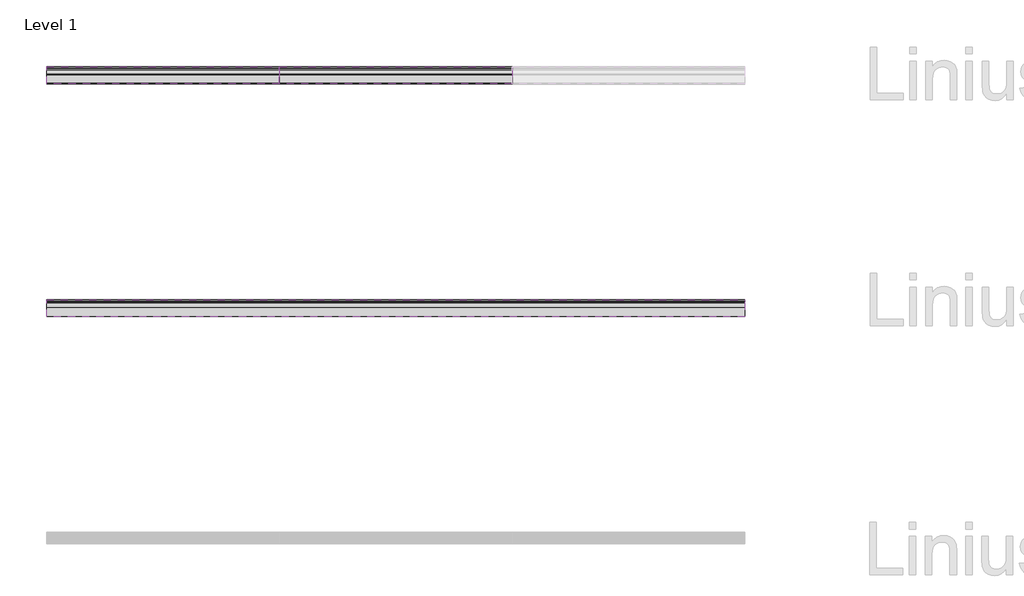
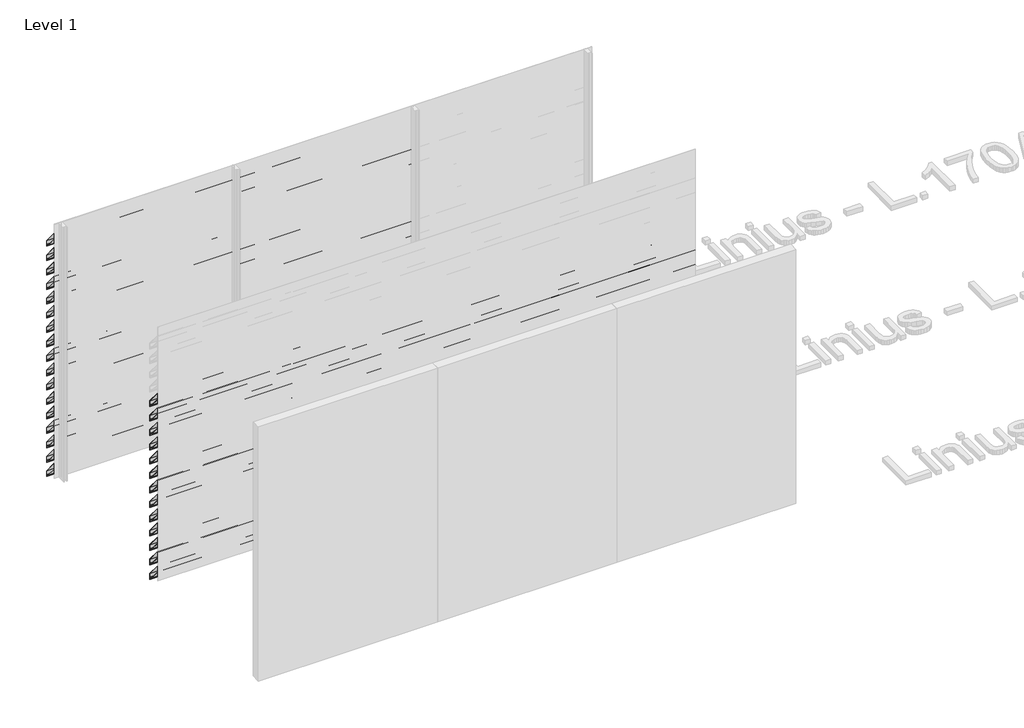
# One storey, part 60 of 121: 47 proxies.
"""IFC4 building model written with IfcOpenShell, lengths in millimetres."""

from ifc_helpers import new_model, si_unit, frame, origin, place, context, project, spatial, polyline, outline, extrude, element, save

model = new_model("IFC4")

# Units and contexts
model_context = context("Model", 3, world=origin())
ifc_project = project(units=[si_unit("LENGTHUNIT", "METRE", prefix="MILLI")], contexts=[model_context])

# Site, building, storey
site = spatial("IfcSite", under=ifc_project)
building = spatial("IfcBuilding", under=site)
storey = spatial("IfcBuildingStorey", under=building, Name="Level 1", Elevation=0.0)

# Proxies
placement = place(None, origin())
element("IfcBuildingElementProxy", 1, Name="Wall Sweeps", at=placement, inside=storey, context=model_context, shape_type="SweptSolid", body=[
    extrude(outline(polyline([(51630.0540136, 2720.0), (51630.0540136, 2651.0), (51627.5540136, 2652.1657691), (51627.5540136, 2665.7059843), (51610.8041465, 2685.6676986), (51600.1189071, 2685.6676986), (51483.0540136, 2825.1802059), (51483.0540136, 2890.0), (51487.4070763, 2890.0), (51630.0540136, 2720.0)]), holes=[polyline([(51486.5210918, 2888.1), (51484.9540136, 2888.1), (51484.9540136, 2825.8717493), (51601.0048916, 2687.5676986), (51611.6901311, 2687.5676986), (51628.1540136, 2667.9468074), (51628.1540136, 2719.3084566), (51486.5210918, 2888.1)])]), frame((44966.6208097, 0.0, 0.0), z_axis=(1.0, 0.0, 0.0), x_axis=(0.0, 1.0, 0.0)), (0.0, 0.0, 1.0), 2000.0),
])
element("IfcBuildingElementProxy", 2, Name="Wall Sweeps", at=placement, inside=storey, context=model_context, shape_type="SweptSolid", body=[
    extrude(outline(polyline([(51630.0540136, 2550.0), (51630.0540136, 2481.0), (51627.5540136, 2482.1657691), (51627.5540136, 2495.7059843), (51610.8041465, 2515.6676986), (51600.1189071, 2515.6676986), (51483.0540136, 2655.1802059), (51483.0540136, 2720.0), (51487.4070763, 2720.0), (51630.0540136, 2550.0)]), holes=[polyline([(51486.5210918, 2718.1), (51484.9540136, 2718.1), (51484.9540136, 2655.8717493), (51601.0048916, 2517.5676986), (51611.6901311, 2517.5676986), (51628.1540136, 2497.9468074), (51628.1540136, 2549.3084566), (51486.5210918, 2718.1)])]), frame((44966.6208097, 0.0, 0.0), z_axis=(1.0, 0.0, 0.0), x_axis=(0.0, 1.0, 0.0)), (0.0, 0.0, 1.0), 2000.0),
])
element("IfcBuildingElementProxy", 3, Name="Wall Sweeps", at=placement, inside=storey, context=model_context, shape_type="SweptSolid", body=[
    extrude(outline(polyline([(51630.0540136, 2380.0), (51630.0540136, 2311.0), (51627.5540136, 2312.1657691), (51627.5540136, 2325.7059843), (51610.8041465, 2345.6676986), (51600.1189071, 2345.6676986), (51483.0540136, 2485.1802059), (51483.0540136, 2550.0), (51487.4070763, 2550.0), (51630.0540136, 2380.0)]), holes=[polyline([(51486.5210918, 2548.1), (51484.9540136, 2548.1), (51484.9540136, 2485.8717493), (51601.0048916, 2347.5676986), (51611.6901311, 2347.5676986), (51628.1540136, 2327.9468074), (51628.1540136, 2379.3084566), (51486.5210918, 2548.1)])]), frame((44966.6208097, 0.0, 0.0), z_axis=(1.0, 0.0, 0.0), x_axis=(0.0, 1.0, 0.0)), (0.0, 0.0, 1.0), 2000.0),
])
element("IfcBuildingElementProxy", 4, Name="Wall Sweeps", at=placement, inside=storey, context=model_context, shape_type="SweptSolid", body=[
    extrude(outline(polyline([(51630.0540136, 2210.0), (51630.0540136, 2141.0), (51627.5540136, 2142.1657691), (51627.5540136, 2155.7059843), (51610.8041465, 2175.6676986), (51600.1189071, 2175.6676986), (51483.0540136, 2315.1802059), (51483.0540136, 2380.0), (51487.4070763, 2380.0), (51630.0540136, 2210.0)]), holes=[polyline([(51486.5210918, 2378.1), (51484.9540136, 2378.1), (51484.9540136, 2315.8717493), (51601.0048916, 2177.5676986), (51611.6901311, 2177.5676986), (51628.1540136, 2157.9468074), (51628.1540136, 2209.3084566), (51486.5210918, 2378.1)])]), frame((44966.6208097, 0.0, 0.0), z_axis=(1.0, 0.0, 0.0), x_axis=(0.0, 1.0, 0.0)), (0.0, 0.0, 1.0), 2000.0),
])
element("IfcBuildingElementProxy", 5, Name="Wall Sweeps", at=placement, inside=storey, context=model_context, shape_type="SweptSolid", body=[
    extrude(outline(polyline([(51630.0540136, 2040.0), (51630.0540136, 1971.0), (51627.5540136, 1972.1657691), (51627.5540136, 1985.7059843), (51610.8041465, 2005.6676986), (51600.1189071, 2005.6676986), (51483.0540136, 2145.1802059), (51483.0540136, 2210.0), (51487.4070763, 2210.0), (51630.0540136, 2040.0)]), holes=[polyline([(51486.5210918, 2208.1), (51484.9540136, 2208.1), (51484.9540136, 2145.8717493), (51601.0048916, 2007.5676986), (51611.6901311, 2007.5676986), (51628.1540136, 1987.9468074), (51628.1540136, 2039.3084566), (51486.5210918, 2208.1)])]), frame((44966.6208097, 0.0, 0.0), z_axis=(1.0, 0.0, 0.0), x_axis=(0.0, 1.0, 0.0)), (0.0, 0.0, 1.0), 2000.0),
])
element("IfcBuildingElementProxy", 6, Name="Wall Sweeps", at=placement, inside=storey, context=model_context, shape_type="SweptSolid", body=[
    extrude(outline(polyline([(51630.0540136, 1870.0), (51630.0540136, 1801.0), (51627.5540136, 1802.1657691), (51627.5540136, 1815.7059843), (51610.8041465, 1835.6676986), (51600.1189071, 1835.6676986), (51483.0540136, 1975.1802059), (51483.0540136, 2040.0), (51487.4070763, 2040.0), (51630.0540136, 1870.0)]), holes=[polyline([(51486.5210918, 2038.1), (51484.9540136, 2038.1), (51484.9540136, 1975.8717493), (51601.0048916, 1837.5676986), (51611.6901311, 1837.5676986), (51628.1540136, 1817.9468074), (51628.1540136, 1869.3084566), (51486.5210918, 2038.1)])]), frame((44966.6208097, 0.0, 0.0), z_axis=(1.0, 0.0, 0.0), x_axis=(0.0, 1.0, 0.0)), (0.0, 0.0, 1.0), 2000.0),
])
element("IfcBuildingElementProxy", 7, Name="Wall Sweeps", at=placement, inside=storey, context=model_context, shape_type="SweptSolid", body=[
    extrude(outline(polyline([(51630.0540136, 1700.0), (51630.0540136, 1631.0), (51627.5540136, 1632.1657691), (51627.5540136, 1645.7059843), (51610.8041465, 1665.6676986), (51600.1189071, 1665.6676986), (51483.0540136, 1805.1802059), (51483.0540136, 1870.0), (51487.4070763, 1870.0), (51630.0540136, 1700.0)]), holes=[polyline([(51486.5210918, 1868.1), (51484.9540136, 1868.1), (51484.9540136, 1805.8717493), (51601.0048916, 1667.5676986), (51611.6901311, 1667.5676986), (51628.1540136, 1647.9468074), (51628.1540136, 1699.3084566), (51486.5210918, 1868.1)])]), frame((44966.6208097, 0.0, 0.0), z_axis=(1.0, 0.0, 0.0), x_axis=(0.0, 1.0, 0.0)), (0.0, 0.0, 1.0), 2000.0),
])
element("IfcBuildingElementProxy", 8, Name="Wall Sweeps", at=placement, inside=storey, context=model_context, shape_type="SweptSolid", body=[
    extrude(outline(polyline([(51630.0540136, 1530.0), (51630.0540136, 1461.0), (51627.5540136, 1462.1657691), (51627.5540136, 1475.7059843), (51610.8041465, 1495.6676986), (51600.1189071, 1495.6676986), (51483.0540136, 1635.1802059), (51483.0540136, 1700.0), (51487.4070763, 1700.0), (51630.0540136, 1530.0)]), holes=[polyline([(51486.5210918, 1698.1), (51484.9540136, 1698.1), (51484.9540136, 1635.8717493), (51601.0048916, 1497.5676986), (51611.6901311, 1497.5676986), (51628.1540136, 1477.9468074), (51628.1540136, 1529.3084566), (51486.5210918, 1698.1)])]), frame((44966.6208097, 0.0, 0.0), z_axis=(1.0, 0.0, 0.0), x_axis=(0.0, 1.0, 0.0)), (0.0, 0.0, 1.0), 2000.0),
])
element("IfcBuildingElementProxy", 9, Name="Wall Sweeps", at=placement, inside=storey, context=model_context, shape_type="SweptSolid", body=[
    extrude(outline(polyline([(51630.0540136, 1360.0), (51630.0540136, 1291.0), (51627.5540136, 1292.1657691), (51627.5540136, 1305.7059843), (51610.8041465, 1325.6676986), (51600.1189071, 1325.6676986), (51483.0540136, 1465.1802059), (51483.0540136, 1530.0), (51487.4070763, 1530.0), (51630.0540136, 1360.0)]), holes=[polyline([(51486.5210918, 1528.1), (51484.9540136, 1528.1), (51484.9540136, 1465.8717493), (51601.0048916, 1327.5676986), (51611.6901311, 1327.5676986), (51628.1540136, 1307.9468074), (51628.1540136, 1359.3084566), (51486.5210918, 1528.1)])]), frame((44966.6208097, 0.0, 0.0), z_axis=(1.0, 0.0, 0.0), x_axis=(0.0, 1.0, 0.0)), (0.0, 0.0, 1.0), 2000.0),
])
element("IfcBuildingElementProxy", 10, Name="Wall Sweeps", at=placement, inside=storey, context=model_context, shape_type="SweptSolid", body=[
    extrude(outline(polyline([(51630.0540136, 1190.0), (51630.0540136, 1121.0), (51627.5540136, 1122.1657691), (51627.5540136, 1135.7059843), (51610.8041465, 1155.6676986), (51600.1189071, 1155.6676986), (51483.0540136, 1295.1802059), (51483.0540136, 1360.0), (51487.4070763, 1360.0), (51630.0540136, 1190.0)]), holes=[polyline([(51486.5210918, 1358.1), (51484.9540136, 1358.1), (51484.9540136, 1295.8717493), (51601.0048916, 1157.5676986), (51611.6901311, 1157.5676986), (51628.1540136, 1137.9468074), (51628.1540136, 1189.3084566), (51486.5210918, 1358.1)])]), frame((44966.6208097, 0.0, 0.0), z_axis=(1.0, 0.0, 0.0), x_axis=(0.0, 1.0, 0.0)), (0.0, 0.0, 1.0), 2000.0),
])
element("IfcBuildingElementProxy", 11, Name="Wall Sweeps", at=placement, inside=storey, context=model_context, shape_type="SweptSolid", body=[
    extrude(outline(polyline([(51630.0540136, 1020.0), (51630.0540136, 951.0), (51627.5540136, 952.1657691), (51627.5540136, 965.7059843), (51610.8041465, 985.6676986), (51600.1189071, 985.6676986), (51483.0540136, 1125.1802059), (51483.0540136, 1190.0), (51487.4070763, 1190.0), (51630.0540136, 1020.0)]), holes=[polyline([(51486.5210918, 1188.1), (51484.9540136, 1188.1), (51484.9540136, 1125.8717493), (51601.0048916, 987.5676986), (51611.6901311, 987.5676986), (51628.1540136, 967.9468074), (51628.1540136, 1019.3084566), (51486.5210918, 1188.1)])]), frame((44966.6208097, 0.0, 0.0), z_axis=(1.0, 0.0, 0.0), x_axis=(0.0, 1.0, 0.0)), (0.0, 0.0, 1.0), 2000.0),
])
element("IfcBuildingElementProxy", 12, Name="Wall Sweeps", at=placement, inside=storey, context=model_context, shape_type="SweptSolid", body=[
    extrude(outline(polyline([(51630.0540136, 850.0), (51630.0540136, 781.0), (51627.5540136, 782.1657691), (51627.5540136, 795.7059843), (51610.8041465, 815.6676986), (51600.1189071, 815.6676986), (51483.0540136, 955.1802059), (51483.0540136, 1020.0), (51487.4070763, 1020.0), (51630.0540136, 850.0)]), holes=[polyline([(51486.5210918, 1018.1), (51484.9540136, 1018.1), (51484.9540136, 955.8717493), (51601.0048916, 817.5676986), (51611.6901311, 817.5676986), (51628.1540136, 797.9468074), (51628.1540136, 849.3084566), (51486.5210918, 1018.1)])]), frame((44966.6208097, 0.0, 0.0), z_axis=(1.0, 0.0, 0.0), x_axis=(0.0, 1.0, 0.0)), (0.0, 0.0, 1.0), 2000.0),
])
element("IfcBuildingElementProxy", 13, Name="Wall Sweeps", at=placement, inside=storey, context=model_context, shape_type="SweptSolid", body=[
    extrude(outline(polyline([(51630.0540136, 680.0), (51630.0540136, 611.0), (51627.5540136, 612.1657691), (51627.5540136, 625.7059843), (51610.8041465, 645.6676986), (51600.1189071, 645.6676986), (51483.0540136, 785.1802059), (51483.0540136, 850.0), (51487.4070763, 850.0), (51630.0540136, 680.0)]), holes=[polyline([(51486.5210918, 848.1), (51484.9540136, 848.1), (51484.9540136, 785.8717493), (51601.0048916, 647.5676986), (51611.6901311, 647.5676986), (51628.1540136, 627.9468074), (51628.1540136, 679.3084566), (51486.5210918, 848.1)])]), frame((44966.6208097, 0.0, 0.0), z_axis=(1.0, 0.0, 0.0), x_axis=(0.0, 1.0, 0.0)), (0.0, 0.0, 1.0), 2000.0),
])
element("IfcBuildingElementProxy", 14, Name="Wall Sweeps", at=placement, inside=storey, context=model_context, shape_type="SweptSolid", body=[
    extrude(outline(polyline([(51630.0540136, 510.0), (51630.0540136, 441.0), (51627.5540136, 442.1657691), (51627.5540136, 455.7059843), (51610.8041465, 475.6676986), (51600.1189071, 475.6676986), (51483.0540136, 615.1802059), (51483.0540136, 680.0), (51487.4070763, 680.0), (51630.0540136, 510.0)]), holes=[polyline([(51486.5210918, 678.1), (51484.9540136, 678.1), (51484.9540136, 615.8717493), (51601.0048916, 477.5676986), (51611.6901311, 477.5676986), (51628.1540136, 457.9468074), (51628.1540136, 509.3084566), (51486.5210918, 678.1)])]), frame((44966.6208097, 0.0, 0.0), z_axis=(1.0, 0.0, 0.0), x_axis=(0.0, 1.0, 0.0)), (0.0, 0.0, 1.0), 2000.0),
])
element("IfcBuildingElementProxy", 15, Name="Wall Sweeps", at=placement, inside=storey, context=model_context, shape_type="SweptSolid", body=[
    extrude(outline(polyline([(51630.0540136, 340.0), (51630.0540136, 271.0), (51627.5540136, 272.1657691), (51627.5540136, 285.7059843), (51610.8041465, 305.6676986), (51600.1189071, 305.6676986), (51483.0540136, 445.1802059), (51483.0540136, 510.0), (51487.4070763, 510.0), (51630.0540136, 340.0)]), holes=[polyline([(51486.5210918, 508.1), (51484.9540136, 508.1), (51484.9540136, 445.8717493), (51601.0048916, 307.5676986), (51611.6901311, 307.5676986), (51628.1540136, 287.9468074), (51628.1540136, 339.3084566), (51486.5210918, 508.1)])]), frame((44966.6208097, 0.0, 0.0), z_axis=(1.0, 0.0, 0.0), x_axis=(0.0, 1.0, 0.0)), (0.0, 0.0, 1.0), 2000.0),
])
element("IfcBuildingElementProxy", 16, Name="Wall Sweeps", at=placement, inside=storey, context=model_context, shape_type="SweptSolid", body=[
    extrude(outline(polyline([(51630.0540136, 170.0), (51630.0540136, 101.0), (51627.5540136, 102.1657691), (51627.5540136, 115.7059843), (51610.8041465, 135.6676986), (51600.1189071, 135.6676986), (51483.0540136, 275.1802059), (51483.0540136, 340.0), (51487.4070763, 340.0), (51630.0540136, 170.0)]), holes=[polyline([(51486.5210918, 338.1), (51484.9540136, 338.1), (51484.9540136, 275.8717493), (51601.0048916, 137.5676986), (51611.6901311, 137.5676986), (51628.1540136, 117.9468074), (51628.1540136, 169.3084566), (51486.5210918, 338.1)])]), frame((44966.6208097, 0.0, 0.0), z_axis=(1.0, 0.0, 0.0), x_axis=(0.0, 1.0, 0.0)), (0.0, 0.0, 1.0), 2000.0),
])
element("IfcBuildingElementProxy", 17, Name="Wall Sweeps", at=placement, inside=storey, context=model_context, shape_type="SweptSolid", body=[
    extrude(outline(polyline([(51630.0540136, 0.0), (51630.0540136, -69.0), (51627.5540136, -67.8342309), (51627.5540136, -54.2940157), (51610.8041465, -34.3323014), (51600.1189071, -34.3323014), (51483.0540136, 105.1802059), (51483.0540136, 170.0), (51487.4070763, 170.0), (51630.0540136, 0.0)]), holes=[polyline([(51486.5210918, 168.1), (51484.9540136, 168.1), (51484.9540136, 105.8717493), (51601.0048916, -32.4323014), (51611.6901311, -32.4323014), (51628.1540136, -52.0531926), (51628.1540136, -0.6915434), (51486.5210918, 168.1)])]), frame((44966.6208097, 0.0, 0.0), z_axis=(1.0, 0.0, 0.0), x_axis=(0.0, 1.0, 0.0)), (0.0, 0.0, 1.0), 2000.0),
])
element("IfcBuildingElementProxy", 18, Name="Wall Sweeps", at=placement, inside=storey, context=model_context, shape_type="SweptSolid", body=[
    extrude(outline(polyline([(51630.0540136, 2720.0), (51630.0540136, 2651.0), (51627.5540136, 2652.1657691), (51627.5540136, 2665.7059843), (51610.8041465, 2685.6676986), (51600.1189071, 2685.6676986), (51483.0540136, 2825.1802059), (51483.0540136, 2890.0), (51487.4070763, 2890.0), (51630.0540136, 2720.0)]), holes=[polyline([(51486.5210918, 2888.1), (51484.9540136, 2888.1), (51484.9540136, 2825.8717493), (51601.0048916, 2687.5676986), (51611.6901311, 2687.5676986), (51628.1540136, 2667.9468074), (51628.1540136, 2719.3084566), (51486.5210918, 2888.1)])]), frame((46966.6208097, 0.0, 0.0), z_axis=(1.0, 0.0, 0.0), x_axis=(0.0, 1.0, 0.0)), (0.0, 0.0, 1.0), 2000.0),
])
element("IfcBuildingElementProxy", 19, Name="Wall Sweeps", at=placement, inside=storey, context=model_context, shape_type="SweptSolid", body=[
    extrude(outline(polyline([(51630.0540136, 2550.0), (51630.0540136, 2481.0), (51627.5540136, 2482.1657691), (51627.5540136, 2495.7059843), (51610.8041465, 2515.6676986), (51600.1189071, 2515.6676986), (51483.0540136, 2655.1802059), (51483.0540136, 2720.0), (51487.4070763, 2720.0), (51630.0540136, 2550.0)]), holes=[polyline([(51486.5210918, 2718.1), (51484.9540136, 2718.1), (51484.9540136, 2655.8717493), (51601.0048916, 2517.5676986), (51611.6901311, 2517.5676986), (51628.1540136, 2497.9468074), (51628.1540136, 2549.3084566), (51486.5210918, 2718.1)])]), frame((46966.6208097, 0.0, 0.0), z_axis=(1.0, 0.0, 0.0), x_axis=(0.0, 1.0, 0.0)), (0.0, 0.0, 1.0), 2000.0),
])
element("IfcBuildingElementProxy", 20, Name="Wall Sweeps", at=placement, inside=storey, context=model_context, shape_type="SweptSolid", body=[
    extrude(outline(polyline([(51630.0540136, 2380.0), (51630.0540136, 2311.0), (51627.5540136, 2312.1657691), (51627.5540136, 2325.7059843), (51610.8041465, 2345.6676986), (51600.1189071, 2345.6676986), (51483.0540136, 2485.1802059), (51483.0540136, 2550.0), (51487.4070763, 2550.0), (51630.0540136, 2380.0)]), holes=[polyline([(51486.5210918, 2548.1), (51484.9540136, 2548.1), (51484.9540136, 2485.8717493), (51601.0048916, 2347.5676986), (51611.6901311, 2347.5676986), (51628.1540136, 2327.9468074), (51628.1540136, 2379.3084566), (51486.5210918, 2548.1)])]), frame((46966.6208097, 0.0, 0.0), z_axis=(1.0, 0.0, 0.0), x_axis=(0.0, 1.0, 0.0)), (0.0, 0.0, 1.0), 2000.0),
])
element("IfcBuildingElementProxy", 21, Name="Wall Sweeps", at=placement, inside=storey, context=model_context, shape_type="SweptSolid", body=[
    extrude(outline(polyline([(51630.0540136, 2210.0), (51630.0540136, 2141.0), (51627.5540136, 2142.1657691), (51627.5540136, 2155.7059843), (51610.8041465, 2175.6676986), (51600.1189071, 2175.6676986), (51483.0540136, 2315.1802059), (51483.0540136, 2380.0), (51487.4070763, 2380.0), (51630.0540136, 2210.0)]), holes=[polyline([(51486.5210918, 2378.1), (51484.9540136, 2378.1), (51484.9540136, 2315.8717493), (51601.0048916, 2177.5676986), (51611.6901311, 2177.5676986), (51628.1540136, 2157.9468074), (51628.1540136, 2209.3084566), (51486.5210918, 2378.1)])]), frame((46966.6208097, 0.0, 0.0), z_axis=(1.0, 0.0, 0.0), x_axis=(0.0, 1.0, 0.0)), (0.0, 0.0, 1.0), 2000.0),
])
element("IfcBuildingElementProxy", 22, Name="Wall Sweeps", at=placement, inside=storey, context=model_context, shape_type="SweptSolid", body=[
    extrude(outline(polyline([(51630.0540136, 2040.0), (51630.0540136, 1971.0), (51627.5540136, 1972.1657691), (51627.5540136, 1985.7059843), (51610.8041465, 2005.6676986), (51600.1189071, 2005.6676986), (51483.0540136, 2145.1802059), (51483.0540136, 2210.0), (51487.4070763, 2210.0), (51630.0540136, 2040.0)]), holes=[polyline([(51486.5210918, 2208.1), (51484.9540136, 2208.1), (51484.9540136, 2145.8717493), (51601.0048916, 2007.5676986), (51611.6901311, 2007.5676986), (51628.1540136, 1987.9468074), (51628.1540136, 2039.3084566), (51486.5210918, 2208.1)])]), frame((46966.6208097, 0.0, 0.0), z_axis=(1.0, 0.0, 0.0), x_axis=(0.0, 1.0, 0.0)), (0.0, 0.0, 1.0), 2000.0),
])
element("IfcBuildingElementProxy", 23, Name="Wall Sweeps", at=placement, inside=storey, context=model_context, shape_type="SweptSolid", body=[
    extrude(outline(polyline([(51630.0540136, 1870.0), (51630.0540136, 1801.0), (51627.5540136, 1802.1657691), (51627.5540136, 1815.7059843), (51610.8041465, 1835.6676986), (51600.1189071, 1835.6676986), (51483.0540136, 1975.1802059), (51483.0540136, 2040.0), (51487.4070763, 2040.0), (51630.0540136, 1870.0)]), holes=[polyline([(51486.5210918, 2038.1), (51484.9540136, 2038.1), (51484.9540136, 1975.8717493), (51601.0048916, 1837.5676986), (51611.6901311, 1837.5676986), (51628.1540136, 1817.9468074), (51628.1540136, 1869.3084566), (51486.5210918, 2038.1)])]), frame((46966.6208097, 0.0, 0.0), z_axis=(1.0, 0.0, 0.0), x_axis=(0.0, 1.0, 0.0)), (0.0, 0.0, 1.0), 2000.0),
])
element("IfcBuildingElementProxy", 24, Name="Wall Sweeps", at=placement, inside=storey, context=model_context, shape_type="SweptSolid", body=[
    extrude(outline(polyline([(51630.0540136, 1700.0), (51630.0540136, 1631.0), (51627.5540136, 1632.1657691), (51627.5540136, 1645.7059843), (51610.8041465, 1665.6676986), (51600.1189071, 1665.6676986), (51483.0540136, 1805.1802059), (51483.0540136, 1870.0), (51487.4070763, 1870.0), (51630.0540136, 1700.0)]), holes=[polyline([(51486.5210918, 1868.1), (51484.9540136, 1868.1), (51484.9540136, 1805.8717493), (51601.0048916, 1667.5676986), (51611.6901311, 1667.5676986), (51628.1540136, 1647.9468074), (51628.1540136, 1699.3084566), (51486.5210918, 1868.1)])]), frame((46966.6208097, 0.0, 0.0), z_axis=(1.0, 0.0, 0.0), x_axis=(0.0, 1.0, 0.0)), (0.0, 0.0, 1.0), 2000.0),
])
element("IfcBuildingElementProxy", 25, Name="Wall Sweeps", at=placement, inside=storey, context=model_context, shape_type="SweptSolid", body=[
    extrude(outline(polyline([(51630.0540136, 1530.0), (51630.0540136, 1461.0), (51627.5540136, 1462.1657691), (51627.5540136, 1475.7059843), (51610.8041465, 1495.6676986), (51600.1189071, 1495.6676986), (51483.0540136, 1635.1802059), (51483.0540136, 1700.0), (51487.4070763, 1700.0), (51630.0540136, 1530.0)]), holes=[polyline([(51486.5210918, 1698.1), (51484.9540136, 1698.1), (51484.9540136, 1635.8717493), (51601.0048916, 1497.5676986), (51611.6901311, 1497.5676986), (51628.1540136, 1477.9468074), (51628.1540136, 1529.3084566), (51486.5210918, 1698.1)])]), frame((46966.6208097, 0.0, 0.0), z_axis=(1.0, 0.0, 0.0), x_axis=(0.0, 1.0, 0.0)), (0.0, 0.0, 1.0), 2000.0),
])
element("IfcBuildingElementProxy", 26, Name="Wall Sweeps", at=placement, inside=storey, context=model_context, shape_type="SweptSolid", body=[
    extrude(outline(polyline([(51630.0540136, 1360.0), (51630.0540136, 1291.0), (51627.5540136, 1292.1657691), (51627.5540136, 1305.7059843), (51610.8041465, 1325.6676986), (51600.1189071, 1325.6676986), (51483.0540136, 1465.1802059), (51483.0540136, 1530.0), (51487.4070763, 1530.0), (51630.0540136, 1360.0)]), holes=[polyline([(51486.5210918, 1528.1), (51484.9540136, 1528.1), (51484.9540136, 1465.8717493), (51601.0048916, 1327.5676986), (51611.6901311, 1327.5676986), (51628.1540136, 1307.9468074), (51628.1540136, 1359.3084566), (51486.5210918, 1528.1)])]), frame((46966.6208097, 0.0, 0.0), z_axis=(1.0, 0.0, 0.0), x_axis=(0.0, 1.0, 0.0)), (0.0, 0.0, 1.0), 2000.0),
])
element("IfcBuildingElementProxy", 27, Name="Wall Sweeps", at=placement, inside=storey, context=model_context, shape_type="SweptSolid", body=[
    extrude(outline(polyline([(51630.0540136, 1190.0), (51630.0540136, 1121.0), (51627.5540136, 1122.1657691), (51627.5540136, 1135.7059843), (51610.8041465, 1155.6676986), (51600.1189071, 1155.6676986), (51483.0540136, 1295.1802059), (51483.0540136, 1360.0), (51487.4070763, 1360.0), (51630.0540136, 1190.0)]), holes=[polyline([(51486.5210918, 1358.1), (51484.9540136, 1358.1), (51484.9540136, 1295.8717493), (51601.0048916, 1157.5676986), (51611.6901311, 1157.5676986), (51628.1540136, 1137.9468074), (51628.1540136, 1189.3084566), (51486.5210918, 1358.1)])]), frame((46966.6208097, 0.0, 0.0), z_axis=(1.0, 0.0, 0.0), x_axis=(0.0, 1.0, 0.0)), (0.0, 0.0, 1.0), 2000.0),
])
element("IfcBuildingElementProxy", 28, Name="Wall Sweeps", at=placement, inside=storey, context=model_context, shape_type="SweptSolid", body=[
    extrude(outline(polyline([(51630.0540136, 1020.0), (51630.0540136, 951.0), (51627.5540136, 952.1657691), (51627.5540136, 965.7059843), (51610.8041465, 985.6676986), (51600.1189071, 985.6676986), (51483.0540136, 1125.1802059), (51483.0540136, 1190.0), (51487.4070763, 1190.0), (51630.0540136, 1020.0)]), holes=[polyline([(51486.5210918, 1188.1), (51484.9540136, 1188.1), (51484.9540136, 1125.8717493), (51601.0048916, 987.5676986), (51611.6901311, 987.5676986), (51628.1540136, 967.9468074), (51628.1540136, 1019.3084566), (51486.5210918, 1188.1)])]), frame((46966.6208097, 0.0, 0.0), z_axis=(1.0, 0.0, 0.0), x_axis=(0.0, 1.0, 0.0)), (0.0, 0.0, 1.0), 2000.0),
])
element("IfcBuildingElementProxy", 29, Name="Wall Sweeps", at=placement, inside=storey, context=model_context, shape_type="SweptSolid", body=[
    extrude(outline(polyline([(51630.0540136, 850.0), (51630.0540136, 781.0), (51627.5540136, 782.1657691), (51627.5540136, 795.7059843), (51610.8041465, 815.6676986), (51600.1189071, 815.6676986), (51483.0540136, 955.1802059), (51483.0540136, 1020.0), (51487.4070763, 1020.0), (51630.0540136, 850.0)]), holes=[polyline([(51486.5210918, 1018.1), (51484.9540136, 1018.1), (51484.9540136, 955.8717493), (51601.0048916, 817.5676986), (51611.6901311, 817.5676986), (51628.1540136, 797.9468074), (51628.1540136, 849.3084566), (51486.5210918, 1018.1)])]), frame((46966.6208097, 0.0, 0.0), z_axis=(1.0, 0.0, 0.0), x_axis=(0.0, 1.0, 0.0)), (0.0, 0.0, 1.0), 2000.0),
])
element("IfcBuildingElementProxy", 30, Name="Wall Sweeps", at=placement, inside=storey, context=model_context, shape_type="SweptSolid", body=[
    extrude(outline(polyline([(51630.0540136, 680.0), (51630.0540136, 611.0), (51627.5540136, 612.1657691), (51627.5540136, 625.7059843), (51610.8041465, 645.6676986), (51600.1189071, 645.6676986), (51483.0540136, 785.1802059), (51483.0540136, 850.0), (51487.4070763, 850.0), (51630.0540136, 680.0)]), holes=[polyline([(51486.5210918, 848.1), (51484.9540136, 848.1), (51484.9540136, 785.8717493), (51601.0048916, 647.5676986), (51611.6901311, 647.5676986), (51628.1540136, 627.9468074), (51628.1540136, 679.3084566), (51486.5210918, 848.1)])]), frame((46966.6208097, 0.0, 0.0), z_axis=(1.0, 0.0, 0.0), x_axis=(0.0, 1.0, 0.0)), (0.0, 0.0, 1.0), 2000.0),
])
element("IfcBuildingElementProxy", 31, Name="Wall Sweeps", at=placement, inside=storey, context=model_context, shape_type="SweptSolid", body=[
    extrude(outline(polyline([(51630.0540136, 510.0), (51630.0540136, 441.0), (51627.5540136, 442.1657691), (51627.5540136, 455.7059843), (51610.8041465, 475.6676986), (51600.1189071, 475.6676986), (51483.0540136, 615.1802059), (51483.0540136, 680.0), (51487.4070763, 680.0), (51630.0540136, 510.0)]), holes=[polyline([(51486.5210918, 678.1), (51484.9540136, 678.1), (51484.9540136, 615.8717493), (51601.0048916, 477.5676986), (51611.6901311, 477.5676986), (51628.1540136, 457.9468074), (51628.1540136, 509.3084566), (51486.5210918, 678.1)])]), frame((46966.6208097, 0.0, 0.0), z_axis=(1.0, 0.0, 0.0), x_axis=(0.0, 1.0, 0.0)), (0.0, 0.0, 1.0), 2000.0),
])
element("IfcBuildingElementProxy", 32, Name="Wall Sweeps", at=placement, inside=storey, context=model_context, shape_type="SweptSolid", body=[
    extrude(outline(polyline([(51630.0540136, 340.0), (51630.0540136, 271.0), (51627.5540136, 272.1657691), (51627.5540136, 285.7059843), (51610.8041465, 305.6676986), (51600.1189071, 305.6676986), (51483.0540136, 445.1802059), (51483.0540136, 510.0), (51487.4070763, 510.0), (51630.0540136, 340.0)]), holes=[polyline([(51486.5210918, 508.1), (51484.9540136, 508.1), (51484.9540136, 445.8717493), (51601.0048916, 307.5676986), (51611.6901311, 307.5676986), (51628.1540136, 287.9468074), (51628.1540136, 339.3084566), (51486.5210918, 508.1)])]), frame((46966.6208097, 0.0, 0.0), z_axis=(1.0, 0.0, 0.0), x_axis=(0.0, 1.0, 0.0)), (0.0, 0.0, 1.0), 2000.0),
])
element("IfcBuildingElementProxy", 33, Name="Wall Sweeps", at=placement, inside=storey, context=model_context, shape_type="SweptSolid", body=[
    extrude(outline(polyline([(51630.0540136, 170.0), (51630.0540136, 101.0), (51627.5540136, 102.1657691), (51627.5540136, 115.7059843), (51610.8041465, 135.6676986), (51600.1189071, 135.6676986), (51483.0540136, 275.1802059), (51483.0540136, 340.0), (51487.4070763, 340.0), (51630.0540136, 170.0)]), holes=[polyline([(51486.5210918, 338.1), (51484.9540136, 338.1), (51484.9540136, 275.8717493), (51601.0048916, 137.5676986), (51611.6901311, 137.5676986), (51628.1540136, 117.9468074), (51628.1540136, 169.3084566), (51486.5210918, 338.1)])]), frame((46966.6208097, 0.0, 0.0), z_axis=(1.0, 0.0, 0.0), x_axis=(0.0, 1.0, 0.0)), (0.0, 0.0, 1.0), 2000.0),
])
element("IfcBuildingElementProxy", 34, Name="Wall Sweeps", at=placement, inside=storey, context=model_context, shape_type="SweptSolid", body=[
    extrude(outline(polyline([(51630.0540136, 0.0), (51630.0540136, -69.0), (51627.5540136, -67.8342309), (51627.5540136, -54.2940157), (51610.8041465, -34.3323014), (51600.1189071, -34.3323014), (51483.0540136, 105.1802059), (51483.0540136, 170.0), (51487.4070763, 170.0), (51630.0540136, 0.0)]), holes=[polyline([(51486.5210918, 168.1), (51484.9540136, 168.1), (51484.9540136, 105.8717493), (51601.0048916, -32.4323014), (51611.6901311, -32.4323014), (51628.1540136, -52.0531926), (51628.1540136, -0.6915434), (51486.5210918, 168.1)])]), frame((46966.6208097, 0.0, 0.0), z_axis=(1.0, 0.0, 0.0), x_axis=(0.0, 1.0, 0.0)), (0.0, 0.0, 1.0), 2000.0),
])
element("IfcBuildingElementProxy", 35, Name="Wall Sweeps", at=placement, inside=storey, context=model_context, shape_type="SweptSolid", body=[
    extrude(outline(polyline([(49630.0540136, 2040.0), (49630.0540136, 1971.0), (49627.5540136, 1972.1657691), (49627.5540136, 1985.7059843), (49610.8041465, 2005.6676986), (49600.1189071, 2005.6676986), (49483.0540136, 2145.1802059), (49483.0540136, 2210.0), (49487.4070763, 2210.0), (49630.0540136, 2040.0)]), holes=[polyline([(49486.5210918, 2208.1), (49484.9540136, 2208.1), (49484.9540136, 2145.8717493), (49601.0048916, 2007.5676986), (49611.6901311, 2007.5676986), (49628.1540136, 1987.9468074), (49628.1540136, 2039.3084566), (49486.5210918, 2208.1)])]), frame((44966.6208097, 0.0, 0.0), z_axis=(1.0, 0.0, 0.0), x_axis=(0.0, 1.0, 0.0)), (0.0, 0.0, 1.0), 6000.0),
])
element("IfcBuildingElementProxy", 36, Name="Wall Sweeps", at=placement, inside=storey, context=model_context, shape_type="SweptSolid", body=[
    extrude(outline(polyline([(49630.0540136, 1870.0), (49630.0540136, 1801.0), (49627.5540136, 1802.1657691), (49627.5540136, 1815.7059843), (49610.8041465, 1835.6676986), (49600.1189071, 1835.6676986), (49483.0540136, 1975.1802059), (49483.0540136, 2040.0), (49487.4070763, 2040.0), (49630.0540136, 1870.0)]), holes=[polyline([(49486.5210918, 2038.1), (49484.9540136, 2038.1), (49484.9540136, 1975.8717493), (49601.0048916, 1837.5676986), (49611.6901311, 1837.5676986), (49628.1540136, 1817.9468074), (49628.1540136, 1869.3084566), (49486.5210918, 2038.1)])]), frame((44966.6208097, 0.0, 0.0), z_axis=(1.0, 0.0, 0.0), x_axis=(0.0, 1.0, 0.0)), (0.0, 0.0, 1.0), 6000.0),
])
element("IfcBuildingElementProxy", 37, Name="Wall Sweeps", at=placement, inside=storey, context=model_context, shape_type="SweptSolid", body=[
    extrude(outline(polyline([(49630.0540136, 1700.0), (49630.0540136, 1631.0), (49627.5540136, 1632.1657691), (49627.5540136, 1645.7059843), (49610.8041465, 1665.6676986), (49600.1189071, 1665.6676986), (49483.0540136, 1805.1802059), (49483.0540136, 1870.0), (49487.4070763, 1870.0), (49630.0540136, 1700.0)]), holes=[polyline([(49486.5210918, 1868.1), (49484.9540136, 1868.1), (49484.9540136, 1805.8717493), (49601.0048916, 1667.5676986), (49611.6901311, 1667.5676986), (49628.1540136, 1647.9468074), (49628.1540136, 1699.3084566), (49486.5210918, 1868.1)])]), frame((44966.6208097, 0.0, 0.0), z_axis=(1.0, 0.0, 0.0), x_axis=(0.0, 1.0, 0.0)), (0.0, 0.0, 1.0), 6000.0),
])
element("IfcBuildingElementProxy", 38, Name="Wall Sweeps", at=placement, inside=storey, context=model_context, shape_type="SweptSolid", body=[
    extrude(outline(polyline([(49630.0540136, 1530.0), (49630.0540136, 1461.0), (49627.5540136, 1462.1657691), (49627.5540136, 1475.7059843), (49610.8041465, 1495.6676986), (49600.1189071, 1495.6676986), (49483.0540136, 1635.1802059), (49483.0540136, 1700.0), (49487.4070763, 1700.0), (49630.0540136, 1530.0)]), holes=[polyline([(49486.5210918, 1698.1), (49484.9540136, 1698.1), (49484.9540136, 1635.8717493), (49601.0048916, 1497.5676986), (49611.6901311, 1497.5676986), (49628.1540136, 1477.9468074), (49628.1540136, 1529.3084566), (49486.5210918, 1698.1)])]), frame((44966.6208097, 0.0, 0.0), z_axis=(1.0, 0.0, 0.0), x_axis=(0.0, 1.0, 0.0)), (0.0, 0.0, 1.0), 6000.0),
])
element("IfcBuildingElementProxy", 39, Name="Wall Sweeps", at=placement, inside=storey, context=model_context, shape_type="SweptSolid", body=[
    extrude(outline(polyline([(49630.0540136, 1360.0), (49630.0540136, 1291.0), (49627.5540136, 1292.1657691), (49627.5540136, 1305.7059843), (49610.8041465, 1325.6676986), (49600.1189071, 1325.6676986), (49483.0540136, 1465.1802059), (49483.0540136, 1530.0), (49487.4070763, 1530.0), (49630.0540136, 1360.0)]), holes=[polyline([(49486.5210918, 1528.1), (49484.9540136, 1528.1), (49484.9540136, 1465.8717493), (49601.0048916, 1327.5676986), (49611.6901311, 1327.5676986), (49628.1540136, 1307.9468074), (49628.1540136, 1359.3084566), (49486.5210918, 1528.1)])]), frame((44966.6208097, 0.0, 0.0), z_axis=(1.0, 0.0, 0.0), x_axis=(0.0, 1.0, 0.0)), (0.0, 0.0, 1.0), 6000.0),
])
element("IfcBuildingElementProxy", 40, Name="Wall Sweeps", at=placement, inside=storey, context=model_context, shape_type="SweptSolid", body=[
    extrude(outline(polyline([(49630.0540136, 1190.0), (49630.0540136, 1121.0), (49627.5540136, 1122.1657691), (49627.5540136, 1135.7059843), (49610.8041465, 1155.6676986), (49600.1189071, 1155.6676986), (49483.0540136, 1295.1802059), (49483.0540136, 1360.0), (49487.4070763, 1360.0), (49630.0540136, 1190.0)]), holes=[polyline([(49486.5210918, 1358.1), (49484.9540136, 1358.1), (49484.9540136, 1295.8717493), (49601.0048916, 1157.5676986), (49611.6901311, 1157.5676986), (49628.1540136, 1137.9468074), (49628.1540136, 1189.3084566), (49486.5210918, 1358.1)])]), frame((44966.6208097, 0.0, 0.0), z_axis=(1.0, 0.0, 0.0), x_axis=(0.0, 1.0, 0.0)), (0.0, 0.0, 1.0), 6000.0),
])
element("IfcBuildingElementProxy", 41, Name="Wall Sweeps", at=placement, inside=storey, context=model_context, shape_type="SweptSolid", body=[
    extrude(outline(polyline([(49630.0540136, 1020.0), (49630.0540136, 951.0), (49627.5540136, 952.1657691), (49627.5540136, 965.7059843), (49610.8041465, 985.6676986), (49600.1189071, 985.6676986), (49483.0540136, 1125.1802059), (49483.0540136, 1190.0), (49487.4070763, 1190.0), (49630.0540136, 1020.0)]), holes=[polyline([(49486.5210918, 1188.1), (49484.9540136, 1188.1), (49484.9540136, 1125.8717493), (49601.0048916, 987.5676986), (49611.6901311, 987.5676986), (49628.1540136, 967.9468074), (49628.1540136, 1019.3084566), (49486.5210918, 1188.1)])]), frame((44966.6208097, 0.0, 0.0), z_axis=(1.0, 0.0, 0.0), x_axis=(0.0, 1.0, 0.0)), (0.0, 0.0, 1.0), 6000.0),
])
element("IfcBuildingElementProxy", 42, Name="Wall Sweeps", at=placement, inside=storey, context=model_context, shape_type="SweptSolid", body=[
    extrude(outline(polyline([(49630.0540136, 850.0), (49630.0540136, 781.0), (49627.5540136, 782.1657691), (49627.5540136, 795.7059843), (49610.8041465, 815.6676986), (49600.1189071, 815.6676986), (49483.0540136, 955.1802059), (49483.0540136, 1020.0), (49487.4070763, 1020.0), (49630.0540136, 850.0)]), holes=[polyline([(49486.5210918, 1018.1), (49484.9540136, 1018.1), (49484.9540136, 955.8717493), (49601.0048916, 817.5676986), (49611.6901311, 817.5676986), (49628.1540136, 797.9468074), (49628.1540136, 849.3084566), (49486.5210918, 1018.1)])]), frame((44966.6208097, 0.0, 0.0), z_axis=(1.0, 0.0, 0.0), x_axis=(0.0, 1.0, 0.0)), (0.0, 0.0, 1.0), 6000.0),
])
element("IfcBuildingElementProxy", 43, Name="Wall Sweeps", at=placement, inside=storey, context=model_context, shape_type="SweptSolid", body=[
    extrude(outline(polyline([(49630.0540136, 680.0), (49630.0540136, 611.0), (49627.5540136, 612.1657691), (49627.5540136, 625.7059843), (49610.8041465, 645.6676986), (49600.1189071, 645.6676986), (49483.0540136, 785.1802059), (49483.0540136, 850.0), (49487.4070763, 850.0), (49630.0540136, 680.0)]), holes=[polyline([(49486.5210918, 848.1), (49484.9540136, 848.1), (49484.9540136, 785.8717493), (49601.0048916, 647.5676986), (49611.6901311, 647.5676986), (49628.1540136, 627.9468074), (49628.1540136, 679.3084566), (49486.5210918, 848.1)])]), frame((44966.6208097, 0.0, 0.0), z_axis=(1.0, 0.0, 0.0), x_axis=(0.0, 1.0, 0.0)), (0.0, 0.0, 1.0), 6000.0),
])
element("IfcBuildingElementProxy", 44, Name="Wall Sweeps", at=placement, inside=storey, context=model_context, shape_type="SweptSolid", body=[
    extrude(outline(polyline([(49630.0540136, 510.0), (49630.0540136, 441.0), (49627.5540136, 442.1657691), (49627.5540136, 455.7059843), (49610.8041465, 475.6676986), (49600.1189071, 475.6676986), (49483.0540136, 615.1802059), (49483.0540136, 680.0), (49487.4070763, 680.0), (49630.0540136, 510.0)]), holes=[polyline([(49486.5210918, 678.1), (49484.9540136, 678.1), (49484.9540136, 615.8717493), (49601.0048916, 477.5676986), (49611.6901311, 477.5676986), (49628.1540136, 457.9468074), (49628.1540136, 509.3084566), (49486.5210918, 678.1)])]), frame((44966.6208097, 0.0, 0.0), z_axis=(1.0, 0.0, 0.0), x_axis=(0.0, 1.0, 0.0)), (0.0, 0.0, 1.0), 6000.0),
])
element("IfcBuildingElementProxy", 45, Name="Wall Sweeps", at=placement, inside=storey, context=model_context, shape_type="SweptSolid", body=[
    extrude(outline(polyline([(49630.0540136, 340.0), (49630.0540136, 271.0), (49627.5540136, 272.1657691), (49627.5540136, 285.7059843), (49610.8041465, 305.6676986), (49600.1189071, 305.6676986), (49483.0540136, 445.1802059), (49483.0540136, 510.0), (49487.4070763, 510.0), (49630.0540136, 340.0)]), holes=[polyline([(49486.5210918, 508.1), (49484.9540136, 508.1), (49484.9540136, 445.8717493), (49601.0048916, 307.5676986), (49611.6901311, 307.5676986), (49628.1540136, 287.9468074), (49628.1540136, 339.3084566), (49486.5210918, 508.1)])]), frame((44966.6208097, 0.0, 0.0), z_axis=(1.0, 0.0, 0.0), x_axis=(0.0, 1.0, 0.0)), (0.0, 0.0, 1.0), 6000.0),
])
element("IfcBuildingElementProxy", 46, Name="Wall Sweeps", at=placement, inside=storey, context=model_context, shape_type="SweptSolid", body=[
    extrude(outline(polyline([(49630.0540136, 170.0), (49630.0540136, 101.0), (49627.5540136, 102.1657691), (49627.5540136, 115.7059843), (49610.8041465, 135.6676986), (49600.1189071, 135.6676986), (49483.0540136, 275.1802059), (49483.0540136, 340.0), (49487.4070763, 340.0), (49630.0540136, 170.0)]), holes=[polyline([(49486.5210918, 338.1), (49484.9540136, 338.1), (49484.9540136, 275.8717493), (49601.0048916, 137.5676986), (49611.6901311, 137.5676986), (49628.1540136, 117.9468074), (49628.1540136, 169.3084566), (49486.5210918, 338.1)])]), frame((44966.6208097, 0.0, 0.0), z_axis=(1.0, 0.0, 0.0), x_axis=(0.0, 1.0, 0.0)), (0.0, 0.0, 1.0), 6000.0),
])
element("IfcBuildingElementProxy", 47, Name="Wall Sweeps", at=placement, inside=storey, context=model_context, shape_type="SweptSolid", body=[
    extrude(outline(polyline([(49630.0540136, 0.0), (49630.0540136, -69.0), (49627.5540136, -67.8342309), (49627.5540136, -54.2940157), (49610.8041465, -34.3323014), (49600.1189071, -34.3323014), (49483.0540136, 105.1802059), (49483.0540136, 170.0), (49487.4070763, 170.0), (49630.0540136, 0.0)]), holes=[polyline([(49486.5210918, 168.1), (49484.9540136, 168.1), (49484.9540136, 105.8717493), (49601.0048916, -32.4323014), (49611.6901311, -32.4323014), (49628.1540136, -52.0531926), (49628.1540136, -0.6915434), (49486.5210918, 168.1)])]), frame((44966.6208097, 0.0, 0.0), z_axis=(1.0, 0.0, 0.0), x_axis=(0.0, 1.0, 0.0)), (0.0, 0.0, 1.0), 6000.0),
])

save(model, "model.ifc")
